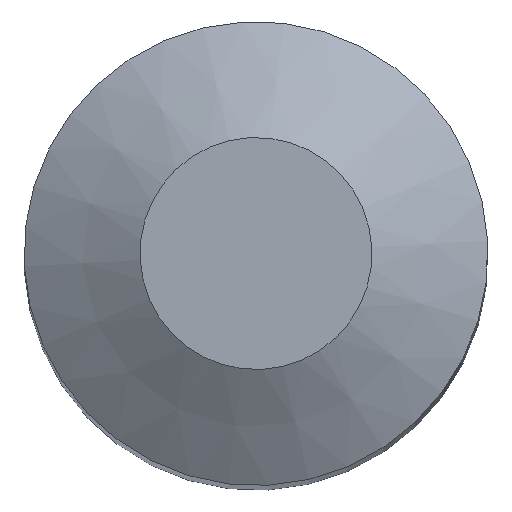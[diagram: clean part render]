
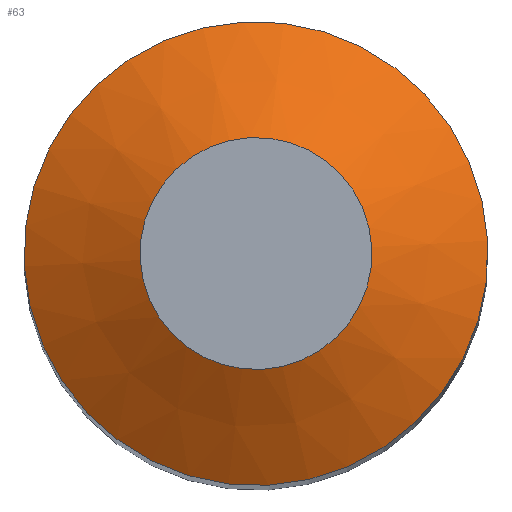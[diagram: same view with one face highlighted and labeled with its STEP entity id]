
A CAD part, top view. The second image highlights one B-rep face of the part: STEP entity #63.
In plain terms, the highlighted conical face has half-angle 60 degrees and reference radius 3 mm.
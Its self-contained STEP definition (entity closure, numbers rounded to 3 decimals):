
#44=CONICAL_SURFACE('',#156,3.,60.);
#55=FACE_BOUND('',#82,.T.);
#56=FACE_BOUND('',#83,.T.);
#63=ADVANCED_FACE('',(#55,#56),#44,.T.);
#82=EDGE_LOOP('',(#96));
#83=EDGE_LOOP('',(#97));
#96=ORIENTED_EDGE('',*,*,#114,.F.);
#97=ORIENTED_EDGE('',*,*,#113,.T.);
#106=VERTEX_POINT('',#215);
#107=VERTEX_POINT('',#218);
#113=EDGE_CURVE('',#106,#106,#120,.T.);
#114=EDGE_CURVE('',#107,#107,#121,.T.);
#120=CIRCLE('',#153,3.);
#121=CIRCLE('',#155,1.5);
#153=AXIS2_PLACEMENT_3D('',#214,#183,#184);
#155=AXIS2_PLACEMENT_3D('',#217,#187,#188);
#156=AXIS2_PLACEMENT_3D('',#219,#189,#190);
#183=DIRECTION('',(0.,0.,1.));
#184=DIRECTION('',(0.729,0.684,0.));
#187=DIRECTION('',(0.,0.,1.));
#188=DIRECTION('',(0.729,0.684,0.));
#189=DIRECTION('',(0.,0.,-1.));
#190=DIRECTION('',(-0.729,-0.684,0.));
#214=CARTESIAN_POINT('',(0.,0.,-0.866));
#215=CARTESIAN_POINT('',(2.187,2.053,-0.866));
#217=CARTESIAN_POINT('',(0.,0.,0.));
#218=CARTESIAN_POINT('',(1.094,1.027,0.));
#219=CARTESIAN_POINT('',(0.,0.,-0.866));
